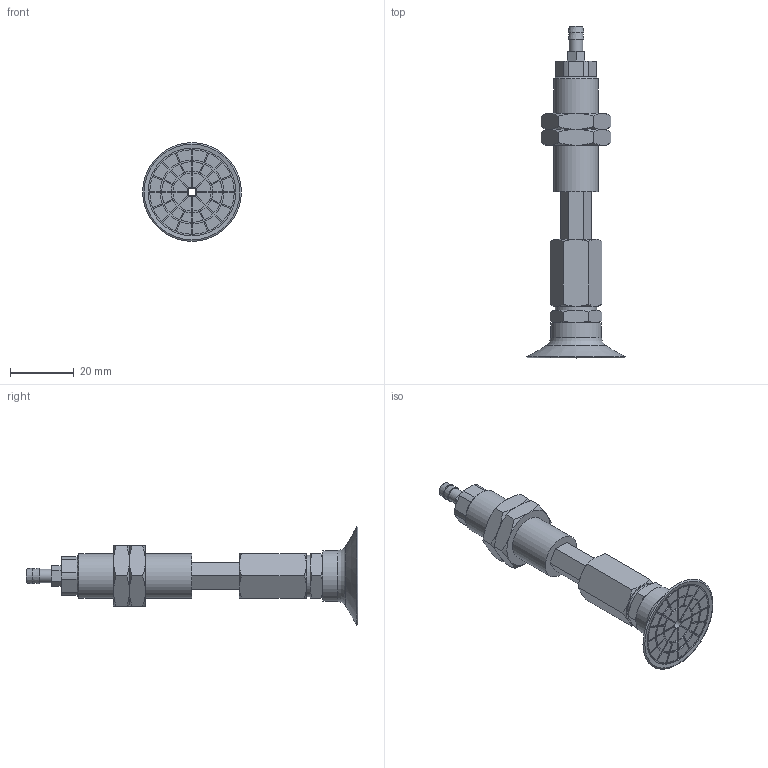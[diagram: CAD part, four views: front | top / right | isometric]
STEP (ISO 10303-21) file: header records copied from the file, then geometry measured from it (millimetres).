
FILE_DESCRIPTION(('STEP AP203'),'1');
FILE_NAME('-T.stp','2025-08-26T08:11:05',(' '),(' '),'Spatial InterOp 3D',' ',' ');
FILE_SCHEMA(('CONFIG_CONTROL_DESIGN'));
Length unit declared in the file: millimetre
Products named in the file (8): BNABPATH-30B-15-※-T; NAPATH-30-15--M; ADAPTER; Nut-25-S; NAPATH-30-15--F; BPAG-30B-※; TN-PA-30B-M6; T
Assembly tree (8 placements, depth 2):
  BNABPATH-30B-15-※-T
    NAPATH-30-15--M
    ADAPTER
    Nut-25-S  x2
    NAPATH-30-15--F
    BPAG-30B-※
    TN-PA-30B-M6
    T
Bounding box: 31.04 x 104.2 x 31.04 mm (x, y, z)
Volume: 15911 mm3; surface area: 12354.1 mm2
Topology: 8 solids, 8 shells, 376 faces, 877 edges, 562 vertices
Faces by surface type: plane 209, cylinder 98, cone 63, torus 6
Full cylindrical faces by diameter (mm): 2.5 x1, 3 x4, 4.134 x1, 4.3 x1, 4.917 x1, 5 x1, 6 x3, 10 x2, 12.917 x2, 13 x1, 14 x1, 16 x1, 27.5 x1
Entity records: 10503 total; most frequent: CARTESIAN_POINT 2056, DIRECTION 1705, ORIENTED_EDGE 1566, EDGE_CURVE 783, AXIS2_PLACEMENT_3D 632, VERTEX_POINT 527, EDGE_LOOP 450, LINE 441
